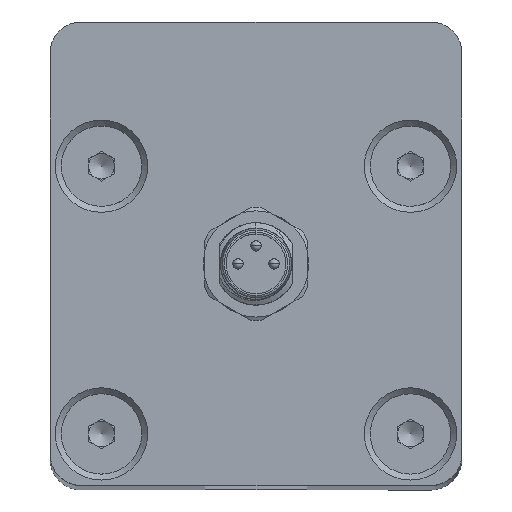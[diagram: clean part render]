
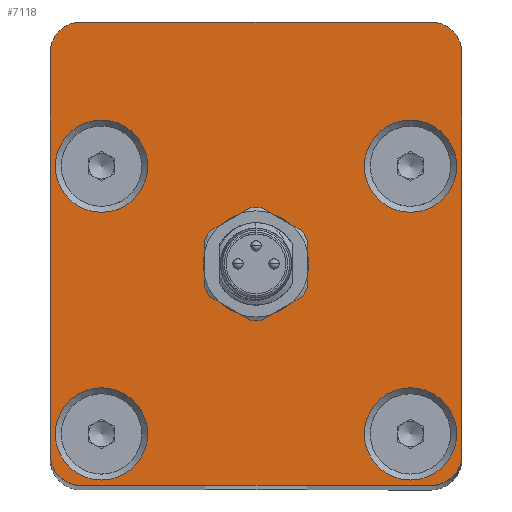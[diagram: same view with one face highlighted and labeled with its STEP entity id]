
A CAD part, top view. The second image highlights one B-rep face of the part: STEP entity #7118.
In plain terms, the highlighted planar face has unit normal (0, 0, 1).
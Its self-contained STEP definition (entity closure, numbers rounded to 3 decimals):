
#4 = CARTESIAN_POINT ( 'NONE',  ( 15., -17.5, 3.17 ) ) ;
#29 = DIRECTION ( 'NONE',  ( 0., 0., -1. ) ) ;
#63 = DIRECTION ( 'NONE',  ( 1., 0., 0. ) ) ;
#73 = DIRECTION ( 'NONE',  ( 0., 0., -1. ) ) ;
#130 = CARTESIAN_POINT ( 'NONE',  ( -15., -17.5, 3.17 ) ) ;
#167 = VERTEX_POINT ( 'NONE', #9947 ) ;
#199 = ORIENTED_EDGE ( 'NONE', *, *, #5396, .F. ) ;
#240 = CARTESIAN_POINT ( 'NONE',  ( -17., -19.5, 3.17 ) ) ;
#360 = VERTEX_POINT ( 'NONE', #5397 ) ;
#479 = ORIENTED_EDGE ( 'NONE', *, *, #5845, .F. ) ;
#519 = CARTESIAN_POINT ( 'NONE',  ( -3.66, -2.848, 3.17 ) ) ;
#644 = ORIENTED_EDGE ( 'NONE', *, *, #6150, .F. ) ;
#715 = VERTEX_POINT ( 'NONE', #9432 ) ;
#745 = VERTEX_POINT ( 'NONE', #5481 ) ;
#765 = DIRECTION ( 'NONE',  ( 1., 0., 0. ) ) ;
#795 = EDGE_CURVE ( 'NONE', #5134, #6838, #7647, .T. ) ;
#829 = CIRCLE ( 'NONE', #4745, 4.48 ) ;
#836 = LINE ( 'NONE', #1509, #5417 ) ;
#893 = CARTESIAN_POINT ( 'NONE',  ( -20., -19.5, 3.17 ) ) ;
#934 = EDGE_LOOP ( 'NONE', ( #1586, #9511, #644, #2722, #2452, #1412, #9692, #199 ) ) ;
#959 = EDGE_CURVE ( 'NONE', #6838, #715, #3468, .T. ) ;
#1035 = EDGE_LOOP ( 'NONE', ( #7395 ) ) ;
#1202 = AXIS2_PLACEMENT_3D ( 'NONE', #3403, #9721, #8127 ) ;
#1222 = CARTESIAN_POINT ( 'NONE',  ( -20., -19.5, 3.17 ) ) ;
#1247 = LINE ( 'NONE', #2022, #2696 ) ;
#1314 = VERTEX_POINT ( 'NONE', #8644 ) ;
#1410 = CARTESIAN_POINT ( 'NONE',  ( 0., -1., 3.17 ) ) ;
#1412 = ORIENTED_EDGE ( 'NONE', *, *, #795, .F. ) ;
#1425 = CARTESIAN_POINT ( 'NONE',  ( 20., 19.5, 3.17 ) ) ;
#1476 = LINE ( 'NONE', #4555, #7440 ) ;
#1509 = CARTESIAN_POINT ( 'NONE',  ( 3.66, -2.848, 3.17 ) ) ;
#1519 = AXIS2_PLACEMENT_3D ( 'NONE', #6898, #4551, #10021 ) ;
#1586 = ORIENTED_EDGE ( 'NONE', *, *, #6599, .F. ) ;
#1624 = EDGE_CURVE ( 'NONE', #3563, #360, #5875, .T. ) ;
#1912 = VECTOR ( 'NONE', #3874, 1000. ) ;
#2022 = CARTESIAN_POINT ( 'NONE',  ( -17., 22.5, 3.17 ) ) ;
#2047 = AXIS2_PLACEMENT_3D ( 'NONE', #8448, #6097, #9896 ) ;
#2084 = DIRECTION ( 'NONE',  ( 0., 0., 1. ) ) ;
#2202 = FACE_BOUND ( 'NONE', #9678, .T. ) ;
#2452 = ORIENTED_EDGE ( 'NONE', *, *, #959, .F. ) ;
#2484 = DIRECTION ( 'NONE',  ( 0., 0., 1. ) ) ;
#2658 = FACE_BOUND ( 'NONE', #4730, .T. ) ;
#2680 = ORIENTED_EDGE ( 'NONE', *, *, #3880, .F. ) ;
#2696 = VECTOR ( 'NONE', #2757, 1000. ) ;
#2722 = ORIENTED_EDGE ( 'NONE', *, *, #6676, .F. ) ;
#2757 = DIRECTION ( 'NONE',  ( 1., 0., 0. ) ) ;
#3058 = CARTESIAN_POINT ( 'NONE',  ( 20., 19.5, 3.17 ) ) ;
#3133 = CARTESIAN_POINT ( 'NONE',  ( 17., 19.5, 3.17 ) ) ;
#3177 = CARTESIAN_POINT ( 'NONE',  ( 19.48, 8.5, 3.17 ) ) ;
#3251 = CIRCLE ( 'NONE', #8526, 3. ) ;
#3300 = CARTESIAN_POINT ( 'NONE',  ( 19.48, -17.5, 3.17 ) ) ;
#3370 = EDGE_LOOP ( 'NONE', ( #8722, #479, #6883, #2680 ) ) ;
#3403 = CARTESIAN_POINT ( 'NONE',  ( -17., 19.5, 3.17 ) ) ;
#3468 = CIRCLE ( 'NONE', #5889, 3. ) ;
#3563 = VERTEX_POINT ( 'NONE', #893 ) ;
#3807 = AXIS2_PLACEMENT_3D ( 'NONE', #8069, #8201, #9726 ) ;
#3845 = AXIS2_PLACEMENT_3D ( 'NONE', #1410, #2084, #9100 ) ;
#3874 = DIRECTION ( 'NONE',  ( 0., -1., 0. ) ) ;
#3880 = EDGE_CURVE ( 'NONE', #6560, #7820, #8326, .T. ) ;
#3978 = DIRECTION ( 'NONE',  ( 0., 0., -1. ) ) ;
#4014 = FACE_BOUND ( 'NONE', #6433, .T. ) ;
#4058 = VERTEX_POINT ( 'NONE', #519 ) ;
#4071 = EDGE_CURVE ( 'NONE', #7241, #7241, #6848, .T. ) ;
#4087 = CARTESIAN_POINT ( 'NONE',  ( -17., 22.5, 3.17 ) ) ;
#4492 = DIRECTION ( 'NONE',  ( -1., 0., 0. ) ) ;
#4516 = CIRCLE ( 'NONE', #1519, 4.48 ) ;
#4551 = DIRECTION ( 'NONE',  ( 0., 0., 1. ) ) ;
#4555 = CARTESIAN_POINT ( 'NONE',  ( 17., -22.5, 3.17 ) ) ;
#4695 = DIRECTION ( 'NONE',  ( 0., 0., 1. ) ) ;
#4730 = EDGE_LOOP ( 'NONE', ( #7824 ) ) ;
#4745 = AXIS2_PLACEMENT_3D ( 'NONE', #130, #4695, #63 ) ;
#4828 = CARTESIAN_POINT ( 'NONE',  ( -3.66, 0.848, 3.17 ) ) ;
#4959 = CIRCLE ( 'NONE', #2047, 3. ) ;
#5134 = VERTEX_POINT ( 'NONE', #1425 ) ;
#5202 = EDGE_CURVE ( 'NONE', #9433, #9433, #4516, .T. ) ;
#5396 = EDGE_CURVE ( 'NONE', #7081, #745, #1247, .T. ) ;
#5397 = CARTESIAN_POINT ( 'NONE',  ( -20., 19.5, 3.17 ) ) ;
#5399 = ORIENTED_EDGE ( 'NONE', *, *, #5202, .F. ) ;
#5412 = VECTOR ( 'NONE', #8591, 1000. ) ;
#5417 = VECTOR ( 'NONE', #7675, 1000. ) ;
#5455 = FACE_OUTER_BOUND ( 'NONE', #934, .T. ) ;
#5459 = DIRECTION ( 'NONE',  ( -1., 0., 0. ) ) ;
#5481 = CARTESIAN_POINT ( 'NONE',  ( 17., 22.5, 3.17 ) ) ;
#5809 = FACE_BOUND ( 'NONE', #1035, .T. ) ;
#5830 = CIRCLE ( 'NONE', #6030, 4.1 ) ;
#5842 = CARTESIAN_POINT ( 'NONE',  ( 3.66, 0.848, 3.17 ) ) ;
#5845 = EDGE_CURVE ( 'NONE', #4058, #7256, #5830, .T. ) ;
#5875 = LINE ( 'NONE', #1222, #6387 ) ;
#5889 = AXIS2_PLACEMENT_3D ( 'NONE', #7883, #29, #5459 ) ;
#5904 = AXIS2_PLACEMENT_3D ( 'NONE', #4, #6187, #765 ) ;
#6030 = AXIS2_PLACEMENT_3D ( 'NONE', #8660, #2484, #7161 ) ;
#6097 = DIRECTION ( 'NONE',  ( 0., 0., -1. ) ) ;
#6150 = EDGE_CURVE ( 'NONE', #167, #3563, #6337, .T. ) ;
#6187 = DIRECTION ( 'NONE',  ( 0., 0., 1. ) ) ;
#6261 = DIRECTION ( 'NONE',  ( -1., 0., 0. ) ) ;
#6337 = CIRCLE ( 'NONE', #8350, 3. ) ;
#6387 = VECTOR ( 'NONE', #9335, 1000. ) ;
#6433 = EDGE_LOOP ( 'NONE', ( #5399 ) ) ;
#6560 = VERTEX_POINT ( 'NONE', #5842 ) ;
#6599 = EDGE_CURVE ( 'NONE', #360, #7081, #4959, .T. ) ;
#6676 = EDGE_CURVE ( 'NONE', #715, #167, #1476, .T. ) ;
#6838 = VERTEX_POINT ( 'NONE', #7043 ) ;
#6848 = CIRCLE ( 'NONE', #5904, 4.48 ) ;
#6883 = ORIENTED_EDGE ( 'NONE', *, *, #9750, .F. ) ;
#6898 = CARTESIAN_POINT ( 'NONE',  ( 15., 8.5, 3.17 ) ) ;
#7043 = CARTESIAN_POINT ( 'NONE',  ( 20., -19.5, 3.17 ) ) ;
#7081 = VERTEX_POINT ( 'NONE', #4087 ) ;
#7118 = ADVANCED_FACE ( 'NONE', ( #7816, #2202, #4014, #5809, #5455, #2658 ), #7405, .F. ) ;
#7161 = DIRECTION ( 'NONE',  ( 1., 0., 0. ) ) ;
#7213 = CARTESIAN_POINT ( 'NONE',  ( -10.52, 8.5, 3.17 ) ) ;
#7241 = VERTEX_POINT ( 'NONE', #3300 ) ;
#7256 = VERTEX_POINT ( 'NONE', #8096 ) ;
#7395 = ORIENTED_EDGE ( 'NONE', *, *, #9920, .F. ) ;
#7399 = VERTEX_POINT ( 'NONE', #7213 ) ;
#7405 = PLANE ( 'NONE',  #1202 ) ;
#7440 = VECTOR ( 'NONE', #4492, 1000. ) ;
#7647 = LINE ( 'NONE', #3058, #5412 ) ;
#7675 = DIRECTION ( 'NONE',  ( 0., 1., 0. ) ) ;
#7816 = FACE_BOUND ( 'NONE', #3370, .T. ) ;
#7820 = VERTEX_POINT ( 'NONE', #4828 ) ;
#7824 = ORIENTED_EDGE ( 'NONE', *, *, #4071, .F. ) ;
#7883 = CARTESIAN_POINT ( 'NONE',  ( 17., -19.5, 3.17 ) ) ;
#8054 = ORIENTED_EDGE ( 'NONE', *, *, #9451, .F. ) ;
#8069 = CARTESIAN_POINT ( 'NONE',  ( -15., 8.5, 3.17 ) ) ;
#8096 = CARTESIAN_POINT ( 'NONE',  ( 3.66, -2.848, 3.17 ) ) ;
#8127 = DIRECTION ( 'NONE',  ( -1., 0., 0. ) ) ;
#8138 = LINE ( 'NONE', #10052, #1912 ) ;
#8201 = DIRECTION ( 'NONE',  ( 0., 0., 1. ) ) ;
#8326 = CIRCLE ( 'NONE', #3845, 4.1 ) ;
#8350 = AXIS2_PLACEMENT_3D ( 'NONE', #240, #3978, #9442 ) ;
#8448 = CARTESIAN_POINT ( 'NONE',  ( -17., 19.5, 3.17 ) ) ;
#8526 = AXIS2_PLACEMENT_3D ( 'NONE', #3133, #73, #6261 ) ;
#8591 = DIRECTION ( 'NONE',  ( 0., -1., 0. ) ) ;
#8644 = CARTESIAN_POINT ( 'NONE',  ( -10.52, -17.5, 3.17 ) ) ;
#8660 = CARTESIAN_POINT ( 'NONE',  ( 0., -1., 3.17 ) ) ;
#8722 = ORIENTED_EDGE ( 'NONE', *, *, #9791, .F. ) ;
#8739 = CIRCLE ( 'NONE', #3807, 4.48 ) ;
#9100 = DIRECTION ( 'NONE',  ( 1., 0., 0. ) ) ;
#9125 = EDGE_CURVE ( 'NONE', #745, #5134, #3251, .T. ) ;
#9335 = DIRECTION ( 'NONE',  ( 0., 1., 0. ) ) ;
#9432 = CARTESIAN_POINT ( 'NONE',  ( 17., -22.5, 3.17 ) ) ;
#9433 = VERTEX_POINT ( 'NONE', #3177 ) ;
#9442 = DIRECTION ( 'NONE',  ( -1., 0., 0. ) ) ;
#9451 = EDGE_CURVE ( 'NONE', #7399, #7399, #8739, .T. ) ;
#9511 = ORIENTED_EDGE ( 'NONE', *, *, #1624, .F. ) ;
#9678 = EDGE_LOOP ( 'NONE', ( #8054 ) ) ;
#9692 = ORIENTED_EDGE ( 'NONE', *, *, #9125, .F. ) ;
#9721 = DIRECTION ( 'NONE',  ( 0., 0., -1. ) ) ;
#9726 = DIRECTION ( 'NONE',  ( 1., 0., 0. ) ) ;
#9750 = EDGE_CURVE ( 'NONE', #7820, #4058, #8138, .T. ) ;
#9791 = EDGE_CURVE ( 'NONE', #7256, #6560, #836, .T. ) ;
#9896 = DIRECTION ( 'NONE',  ( -1., 0., 0. ) ) ;
#9920 = EDGE_CURVE ( 'NONE', #1314, #1314, #829, .T. ) ;
#9947 = CARTESIAN_POINT ( 'NONE',  ( -17., -22.5, 3.17 ) ) ;
#10021 = DIRECTION ( 'NONE',  ( 1., 0., 0. ) ) ;
#10052 = CARTESIAN_POINT ( 'NONE',  ( -3.66, -2.848, 3.17 ) ) ;
